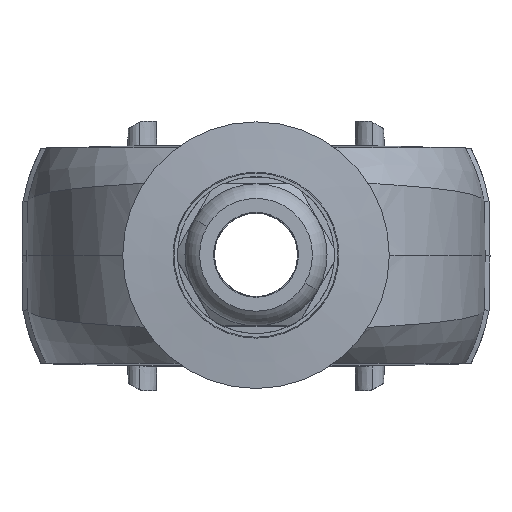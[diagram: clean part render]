
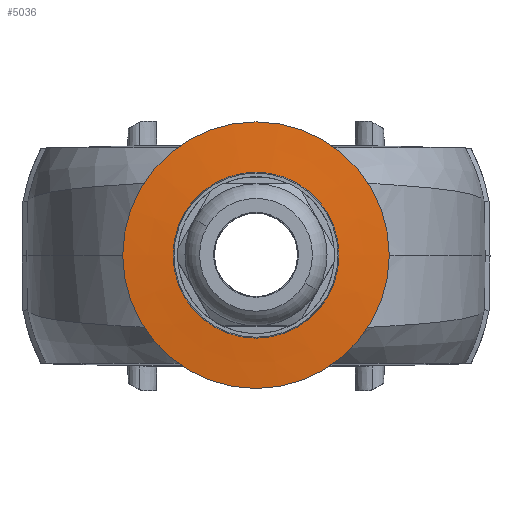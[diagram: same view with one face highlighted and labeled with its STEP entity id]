
A CAD part, top view. The second image highlights one B-rep face of the part: STEP entity #5036.
In plain terms, the highlighted conical face has half-angle 85 degrees and reference radius 27.25 mm.
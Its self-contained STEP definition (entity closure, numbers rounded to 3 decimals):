
#5036=ADVANCED_FACE('',(#5688,#5689),#5439,.T.);
#5439=CONICAL_SURFACE('',#11902,27.25,85.);
#5551=CIRCLE('',#11900,16.934);
#5552=CIRCLE('',#11901,27.2);
#5688=FACE_BOUND('',#5876,.T.);
#5689=FACE_BOUND('',#5877,.T.);
#5876=EDGE_LOOP('',(#6849));
#5877=EDGE_LOOP('',(#6850));
#6849=ORIENTED_EDGE('',*,*,#9965,.T.);
#6850=ORIENTED_EDGE('',*,*,#9966,.T.);
#9033=VERTEX_POINT('',#15384);
#9034=VERTEX_POINT('',#15386);
#9965=EDGE_CURVE('',#9033,#9033,#5551,.T.);
#9966=EDGE_CURVE('',#9034,#9034,#5552,.T.);
#11900=AXIS2_PLACEMENT_3D('',#15383,#12777,#12778);
#11901=AXIS2_PLACEMENT_3D('',#15385,#12779,#12780);
#11902=AXIS2_PLACEMENT_3D('',#15387,#12781,#12782);
#12777=DIRECTION('',(0.,0.,-1.));
#12778=DIRECTION('',(1.,0.,0.));
#12779=DIRECTION('',(0.,0.,1.));
#12780=DIRECTION('',(-1.,0.,0.));
#12781=DIRECTION('',(0.,0.,-1.));
#12782=DIRECTION('',(-1.,0.,0.));
#15383=CARTESIAN_POINT('',(0.,0.,93.653));
#15384=CARTESIAN_POINT('',(16.934,0.,93.653));
#15385=CARTESIAN_POINT('',(0.,0.,92.754));
#15386=CARTESIAN_POINT('',(-27.2,0.,92.754));
#15387=CARTESIAN_POINT('',(0.,0.,92.75));
